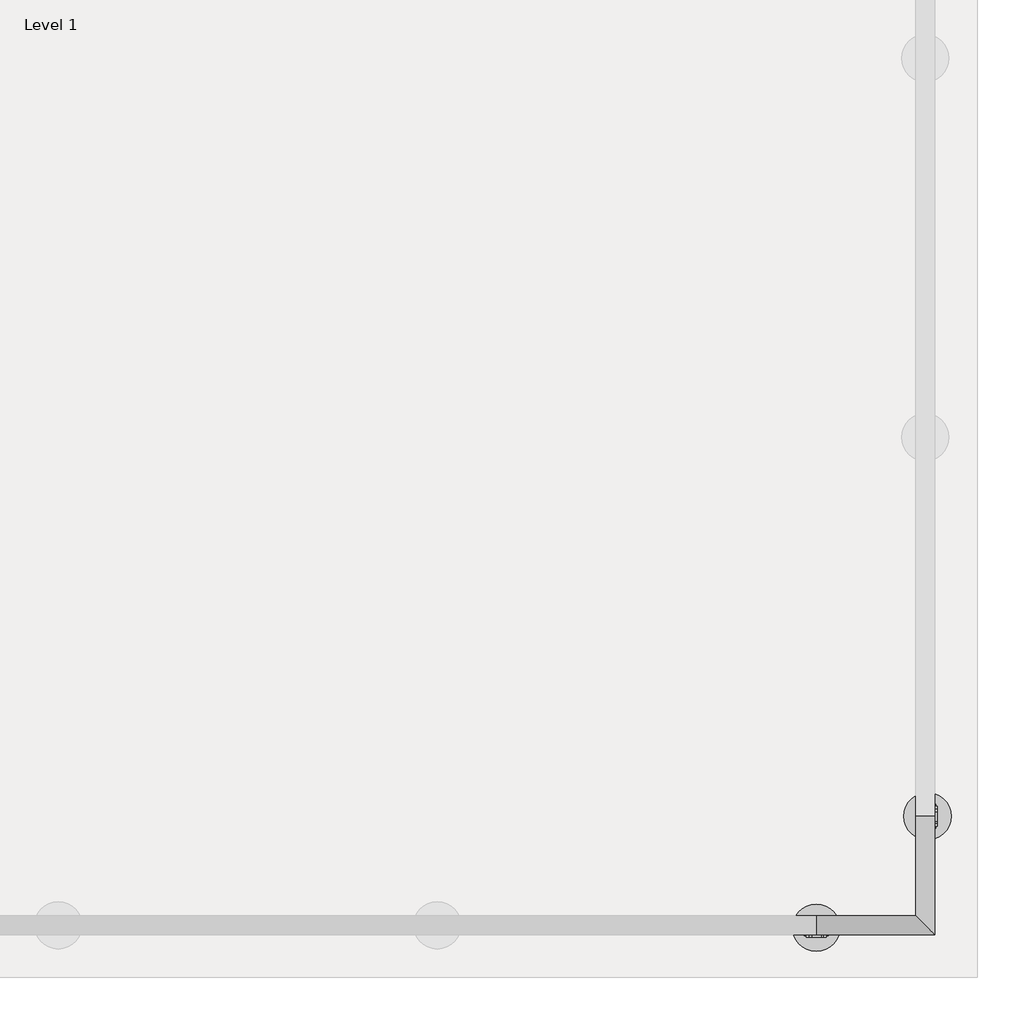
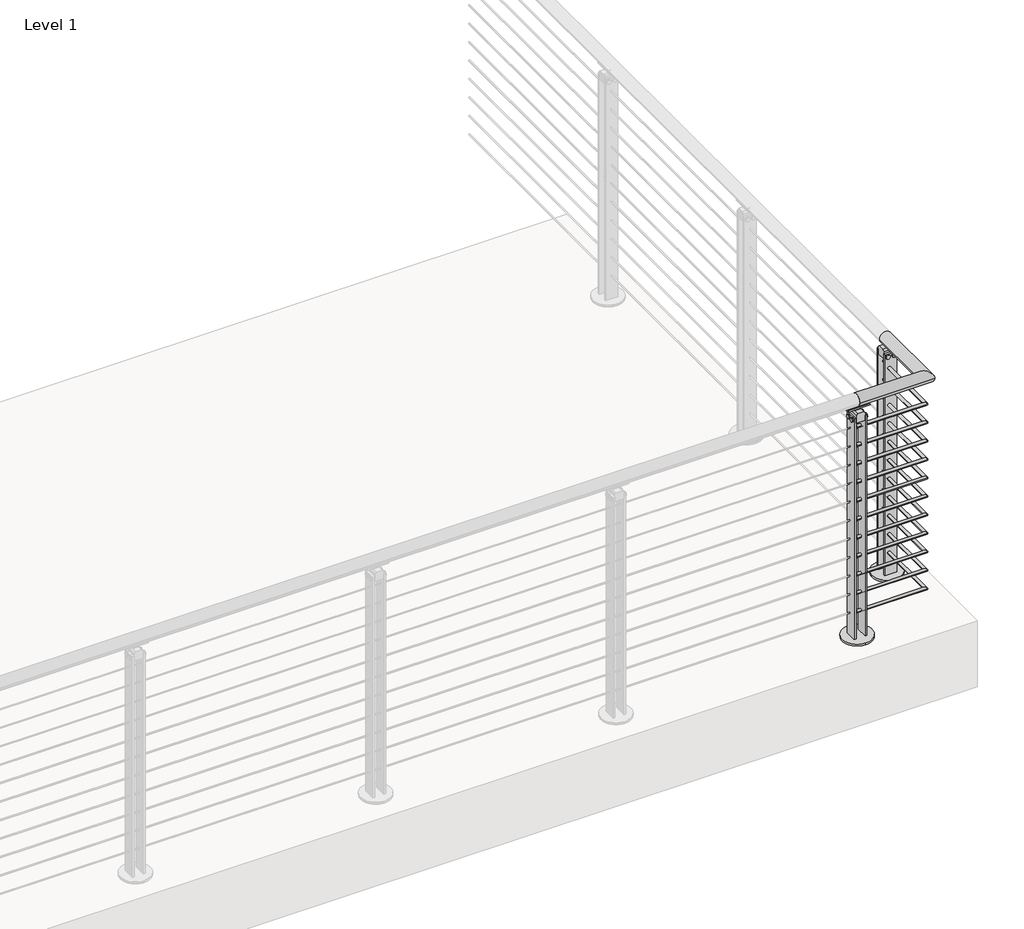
# One storey, part 21 of 36: 1 railing.
"""IFC4 building model written with IfcOpenShell, lengths in millimetres."""

from ifc_helpers import new_model, si_unit, point, frame, frame_2d, origin, origin_with_axes, place, context, project, spatial, polyline, circle_curve, ellipse_curve, trimmed, segment, composite_curve, outline, extrude, element, save
from ifc_brep_helpers import plane_surface, cylinder_surface, revolved_surface, advanced_brep

model = new_model("IFC4")

# Units and contexts
model_context = context("Model", 3, world=origin())
ifc_project = project(units=[si_unit("LENGTHUNIT", "METRE", prefix="MILLI")], contexts=[model_context])

# Site, building, storey
site = spatial("IfcSite", under=ifc_project)
building = spatial("IfcBuilding", under=site)
storey = spatial("IfcBuildingStorey", under=building, Name="Level 1", Elevation=0.0)

# Railing
placement = place(None, origin())
element("IfcRailing", 1, ObjectType="VIVA-BLADE-Cable-Core Mount-Corner", at=placement, inside=storey, context=model_context, shape_type="SolidModel", body=[
    advanced_brep(
    [(69591.9592968, -57070.1334719, 1054.1), (69591.9592968, -57019.3334719, 1054.1), (69909.4592968, -57070.1334719, 1054.1), (69858.6592968, -57019.3334719, 1054.1), (69909.4592968, -56752.6334719, 1054.1), (69858.6592968, -56752.6334719, 1054.1)],
    [
        (0, 1, circle_curve(frame((69591.9592968, -57044.7334719, 1054.1), z_axis=(-1.0, 0.0, 0.0), x_axis=(0.0, 1.0, 0.0)), 25.4)),
        (1, 0, circle_curve(frame((69591.9592968, -57044.7334719, 1054.1), z_axis=(-1.0, 0.0, 0.0), x_axis=(0.0, 1.0, 0.0)), 25.4)),
        (0, 2),
        (2, 3, ellipse_curve(frame((69884.0592968, -57044.7334719, 1054.1), z_axis=(-0.7071067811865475, -0.7071067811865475, 0.0), x_axis=(-0.7071067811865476, 0.7071067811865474, 0.0)), 35.9210245, 25.4)),
        (3, 1),
        (3, 2, ellipse_curve(frame((69884.0592968, -57044.7334719, 1054.1), z_axis=(-0.7071067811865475, -0.7071067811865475, 0.0), x_axis=(-0.7071067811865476, 0.7071067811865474, 0.0)), 35.9210245, 25.4)),
        (4, 5, circle_curve(frame((69884.0592968, -56752.6334719, 1054.1), z_axis=(0.0, 1.0, 0.0), x_axis=(-1.0, 0.0, 0.0)), 25.4)),
        (5, 4, circle_curve(frame((69884.0592968, -56752.6334719, 1054.1), z_axis=(0.0, 1.0, 0.0), x_axis=(-1.0, 0.0, 0.0)), 25.4)),
        (2, 4),
        (5, 3),
    ],
    [
        plane_surface(frame((69591.9592968, -57044.7334719, 1079.5), z_axis=(-1.0, 0.0, 0.0), x_axis=(0.0, 1.0, 0.0))),
        cylinder_surface(frame((69591.9592968, -57044.7334719, 1054.1), z_axis=(-1.0, 0.0, 0.0), x_axis=(0.0, 1.0, 0.0)), 25.4),
        plane_surface(frame((69884.0592968, -56752.6334719, 1079.5), z_axis=(0.0, 1.0, 0.0), x_axis=(0.0, 0.0, 1.0))),
        cylinder_surface(frame((69884.0592968, -57044.7334719, 1054.1), z_axis=(0.0, -1.0, 0.0), x_axis=(-1.0, 0.0, 0.0)), 25.4),
    ],
    [
        (0, [[1, 2]]),
        (1, [[-1, 3, 4, 5]]),
        (1, [[-2, -5, 6, -3]]),
        (2, [[7, 8]]),
        (3, [[-4, 9, -8, 10]]),
        (3, [[-6, -10, -7, -9]]),
    ],
),
    advanced_brep(
    [(69591.9592968, -57038.3834719, 933.45), (69591.9592968, -57051.0834719, 933.45), (69877.7092968, -57038.3834719, 933.45), (69890.4092968, -57051.0834719, 933.45), (69877.7092968, -56752.6334719, 933.45), (69890.4092968, -56752.6334719, 933.45)],
    [
        (0, 1, circle_curve(frame((69591.9592968, -57044.7334719, 933.45), z_axis=(-1.0, 0.0, 0.0), x_axis=(0.0, -1.0, 0.0)), 6.35)),
        (1, 0, circle_curve(frame((69591.9592968, -57044.7334719, 933.45), z_axis=(-1.0, 0.0, 0.0), x_axis=(0.0, -1.0, 0.0)), 6.35)),
        (0, 2),
        (2, 3, ellipse_curve(frame((69884.0592968, -57044.7334719, 933.45), z_axis=(-0.7071067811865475, -0.7071067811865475, 0.0), x_axis=(-0.7071067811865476, 0.7071067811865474, 0.0)), 8.9802561, 6.35)),
        (3, 1),
        (3, 2, ellipse_curve(frame((69884.0592968, -57044.7334719, 933.45), z_axis=(-0.7071067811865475, -0.7071067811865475, 0.0), x_axis=(-0.7071067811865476, 0.7071067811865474, 0.0)), 8.9802561, 6.35)),
        (4, 5, circle_curve(frame((69884.0592968, -56752.6334719, 933.45), z_axis=(0.0, 1.0, 0.0), x_axis=(1.0, 0.0, 0.0)), 6.35)),
        (5, 4, circle_curve(frame((69884.0592968, -56752.6334719, 933.45), z_axis=(0.0, 1.0, 0.0), x_axis=(1.0, 0.0, 0.0)), 6.35)),
        (2, 4),
        (5, 3),
    ],
    [
        plane_surface(frame((69591.9592968, -57044.7334719, 939.8), z_axis=(-1.0, 0.0, 0.0), x_axis=(0.0, 1.0, 0.0))),
        cylinder_surface(frame((69591.9592968, -57044.7334719, 933.45), z_axis=(-1.0, 0.0, 0.0), x_axis=(0.0, -1.0, 0.0)), 6.35),
        plane_surface(frame((69884.0592968, -56752.6334719, 939.8), z_axis=(0.0, 1.0, 0.0), x_axis=(0.0, 0.0, 1.0))),
        cylinder_surface(frame((69884.0592968, -57044.7334719, 933.45), z_axis=(0.0, -1.0, 0.0), x_axis=(1.0, 0.0, 0.0)), 6.35),
    ],
    [
        (0, [[1, 2]]),
        (1, [[-1, 3, 4, 5]]),
        (1, [[-2, -5, 6, -3]]),
        (2, [[7, 8]]),
        (3, [[-4, 9, -8, 10]]),
        (3, [[-6, -10, -7, -9]]),
    ],
),
    advanced_brep(
    [(69591.9592968, -57038.3834719, 850.9), (69591.9592968, -57051.0834719, 850.9), (69877.7092968, -57038.3834719, 850.9), (69890.4092968, -57051.0834719, 850.9), (69877.7092968, -56752.6334719, 850.9), (69890.4092968, -56752.6334719, 850.9)],
    [
        (0, 1, circle_curve(frame((69591.9592968, -57044.7334719, 850.9), z_axis=(-1.0, 0.0, 0.0), x_axis=(0.0, -1.0, 0.0)), 6.35)),
        (1, 0, circle_curve(frame((69591.9592968, -57044.7334719, 850.9), z_axis=(-1.0, 0.0, 0.0), x_axis=(0.0, -1.0, 0.0)), 6.35)),
        (0, 2),
        (2, 3, ellipse_curve(frame((69884.0592968, -57044.7334719, 850.9), z_axis=(-0.7071067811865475, -0.7071067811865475, 0.0), x_axis=(-0.7071067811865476, 0.7071067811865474, 0.0)), 8.9802561, 6.35)),
        (3, 1),
        (3, 2, ellipse_curve(frame((69884.0592968, -57044.7334719, 850.9), z_axis=(-0.7071067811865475, -0.7071067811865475, 0.0), x_axis=(-0.7071067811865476, 0.7071067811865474, 0.0)), 8.9802561, 6.35)),
        (4, 5, circle_curve(frame((69884.0592968, -56752.6334719, 850.9), z_axis=(0.0, 1.0, 0.0), x_axis=(1.0, 0.0, 0.0)), 6.35)),
        (5, 4, circle_curve(frame((69884.0592968, -56752.6334719, 850.9), z_axis=(0.0, 1.0, 0.0), x_axis=(1.0, 0.0, 0.0)), 6.35)),
        (2, 4),
        (5, 3),
    ],
    [
        plane_surface(frame((69591.9592968, -57044.7334719, 857.25), z_axis=(-1.0, 0.0, 0.0), x_axis=(0.0, 1.0, 0.0))),
        cylinder_surface(frame((69591.9592968, -57044.7334719, 850.9), z_axis=(-1.0, 0.0, 0.0), x_axis=(0.0, -1.0, 0.0)), 6.35),
        plane_surface(frame((69884.0592968, -56752.6334719, 857.25), z_axis=(0.0, 1.0, 0.0), x_axis=(0.0, 0.0, 1.0))),
        cylinder_surface(frame((69884.0592968, -57044.7334719, 850.9), z_axis=(0.0, -1.0, 0.0), x_axis=(1.0, 0.0, 0.0)), 6.35),
    ],
    [
        (0, [[1, 2]]),
        (1, [[-1, 3, 4, 5]]),
        (1, [[-2, -5, 6, -3]]),
        (2, [[7, 8]]),
        (3, [[-4, 9, -8, 10]]),
        (3, [[-6, -10, -7, -9]]),
    ],
),
    advanced_brep(
    [(69591.9592968, -57038.3834719, 768.35), (69591.9592968, -57051.0834719, 768.35), (69877.7092968, -57038.3834719, 768.35), (69890.4092968, -57051.0834719, 768.35), (69877.7092968, -56752.6334719, 768.35), (69890.4092968, -56752.6334719, 768.35)],
    [
        (0, 1, circle_curve(frame((69591.9592968, -57044.7334719, 768.35), z_axis=(-1.0, 0.0, 0.0), x_axis=(0.0, -1.0, 0.0)), 6.35)),
        (1, 0, circle_curve(frame((69591.9592968, -57044.7334719, 768.35), z_axis=(-1.0, 0.0, 0.0), x_axis=(0.0, -1.0, 0.0)), 6.35)),
        (0, 2),
        (2, 3, ellipse_curve(frame((69884.0592968, -57044.7334719, 768.35), z_axis=(-0.7071067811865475, -0.7071067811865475, 0.0), x_axis=(-0.7071067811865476, 0.7071067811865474, 0.0)), 8.9802561, 6.35)),
        (3, 1),
        (3, 2, ellipse_curve(frame((69884.0592968, -57044.7334719, 768.35), z_axis=(-0.7071067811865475, -0.7071067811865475, 0.0), x_axis=(-0.7071067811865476, 0.7071067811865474, 0.0)), 8.9802561, 6.35)),
        (4, 5, circle_curve(frame((69884.0592968, -56752.6334719, 768.35), z_axis=(0.0, 1.0, 0.0), x_axis=(1.0, 0.0, 0.0)), 6.35)),
        (5, 4, circle_curve(frame((69884.0592968, -56752.6334719, 768.35), z_axis=(0.0, 1.0, 0.0), x_axis=(1.0, 0.0, 0.0)), 6.35)),
        (2, 4),
        (5, 3),
    ],
    [
        plane_surface(frame((69591.9592968, -57044.7334719, 774.7), z_axis=(-1.0, 0.0, 0.0), x_axis=(0.0, 1.0, 0.0))),
        cylinder_surface(frame((69591.9592968, -57044.7334719, 768.35), z_axis=(-1.0, 0.0, 0.0), x_axis=(0.0, -1.0, 0.0)), 6.35),
        plane_surface(frame((69884.0592968, -56752.6334719, 774.7), z_axis=(0.0, 1.0, 0.0), x_axis=(0.0, 0.0, 1.0))),
        cylinder_surface(frame((69884.0592968, -57044.7334719, 768.35), z_axis=(0.0, -1.0, 0.0), x_axis=(1.0, 0.0, 0.0)), 6.35),
    ],
    [
        (0, [[1, 2]]),
        (1, [[-1, 3, 4, 5]]),
        (1, [[-2, -5, 6, -3]]),
        (2, [[7, 8]]),
        (3, [[-4, 9, -8, 10]]),
        (3, [[-6, -10, -7, -9]]),
    ],
),
    advanced_brep(
    [(69591.9592968, -57038.3834719, 685.8), (69591.9592968, -57051.0834719, 685.8), (69877.7092968, -57038.3834719, 685.8), (69890.4092968, -57051.0834719, 685.8), (69877.7092968, -56752.6334719, 685.8), (69890.4092968, -56752.6334719, 685.8)],
    [
        (0, 1, circle_curve(frame((69591.9592968, -57044.7334719, 685.8), z_axis=(-1.0, 0.0, 0.0), x_axis=(0.0, -1.0, 0.0)), 6.35)),
        (1, 0, circle_curve(frame((69591.9592968, -57044.7334719, 685.8), z_axis=(-1.0, 0.0, 0.0), x_axis=(0.0, -1.0, 0.0)), 6.35)),
        (0, 2),
        (2, 3, ellipse_curve(frame((69884.0592968, -57044.7334719, 685.8), z_axis=(-0.7071067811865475, -0.7071067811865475, 0.0), x_axis=(-0.7071067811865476, 0.7071067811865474, 0.0)), 8.9802561, 6.35)),
        (3, 1),
        (3, 2, ellipse_curve(frame((69884.0592968, -57044.7334719, 685.8), z_axis=(-0.7071067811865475, -0.7071067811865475, 0.0), x_axis=(-0.7071067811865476, 0.7071067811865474, 0.0)), 8.9802561, 6.35)),
        (4, 5, circle_curve(frame((69884.0592968, -56752.6334719, 685.8), z_axis=(0.0, 1.0, 0.0), x_axis=(1.0, 0.0, 0.0)), 6.35)),
        (5, 4, circle_curve(frame((69884.0592968, -56752.6334719, 685.8), z_axis=(0.0, 1.0, 0.0), x_axis=(1.0, 0.0, 0.0)), 6.35)),
        (2, 4),
        (5, 3),
    ],
    [
        plane_surface(frame((69591.9592968, -57044.7334719, 692.15), z_axis=(-1.0, 0.0, 0.0), x_axis=(0.0, 1.0, 0.0))),
        cylinder_surface(frame((69591.9592968, -57044.7334719, 685.8), z_axis=(-1.0, 0.0, 0.0), x_axis=(0.0, -1.0, 0.0)), 6.35),
        plane_surface(frame((69884.0592968, -56752.6334719, 692.15), z_axis=(0.0, 1.0, 0.0), x_axis=(0.0, 0.0, 1.0))),
        cylinder_surface(frame((69884.0592968, -57044.7334719, 685.8), z_axis=(0.0, -1.0, 0.0), x_axis=(1.0, 0.0, 0.0)), 6.35),
    ],
    [
        (0, [[1, 2]]),
        (1, [[-1, 3, 4, 5]]),
        (1, [[-2, -5, 6, -3]]),
        (2, [[7, 8]]),
        (3, [[-4, 9, -8, 10]]),
        (3, [[-6, -10, -7, -9]]),
    ],
),
    advanced_brep(
    [(69591.9592968, -57038.3834719, 603.25), (69591.9592968, -57051.0834719, 603.25), (69877.7092968, -57038.3834719, 603.25), (69890.4092968, -57051.0834719, 603.25), (69877.7092968, -56752.6334719, 603.25), (69890.4092968, -56752.6334719, 603.25)],
    [
        (0, 1, circle_curve(frame((69591.9592968, -57044.7334719, 603.25), z_axis=(-1.0, 0.0, 0.0), x_axis=(0.0, -1.0, 0.0)), 6.35)),
        (1, 0, circle_curve(frame((69591.9592968, -57044.7334719, 603.25), z_axis=(-1.0, 0.0, 0.0), x_axis=(0.0, -1.0, 0.0)), 6.35)),
        (0, 2),
        (2, 3, ellipse_curve(frame((69884.0592968, -57044.7334719, 603.25), z_axis=(-0.7071067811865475, -0.7071067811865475, 0.0), x_axis=(-0.7071067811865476, 0.7071067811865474, 0.0)), 8.9802561, 6.35)),
        (3, 1),
        (3, 2, ellipse_curve(frame((69884.0592968, -57044.7334719, 603.25), z_axis=(-0.7071067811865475, -0.7071067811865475, 0.0), x_axis=(-0.7071067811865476, 0.7071067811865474, 0.0)), 8.9802561, 6.35)),
        (4, 5, circle_curve(frame((69884.0592968, -56752.6334719, 603.25), z_axis=(0.0, 1.0, 0.0), x_axis=(1.0, 0.0, 0.0)), 6.35)),
        (5, 4, circle_curve(frame((69884.0592968, -56752.6334719, 603.25), z_axis=(0.0, 1.0, 0.0), x_axis=(1.0, 0.0, 0.0)), 6.35)),
        (2, 4),
        (5, 3),
    ],
    [
        plane_surface(frame((69591.9592968, -57044.7334719, 609.6), z_axis=(-1.0, 0.0, 0.0), x_axis=(0.0, 1.0, 0.0))),
        cylinder_surface(frame((69591.9592968, -57044.7334719, 603.25), z_axis=(-1.0, 0.0, 0.0), x_axis=(0.0, -1.0, 0.0)), 6.35),
        plane_surface(frame((69884.0592968, -56752.6334719, 609.6), z_axis=(0.0, 1.0, 0.0), x_axis=(0.0, 0.0, 1.0))),
        cylinder_surface(frame((69884.0592968, -57044.7334719, 603.25), z_axis=(0.0, -1.0, 0.0), x_axis=(1.0, 0.0, 0.0)), 6.35),
    ],
    [
        (0, [[1, 2]]),
        (1, [[-1, 3, 4, 5]]),
        (1, [[-2, -5, 6, -3]]),
        (2, [[7, 8]]),
        (3, [[-4, 9, -8, 10]]),
        (3, [[-6, -10, -7, -9]]),
    ],
),
    advanced_brep(
    [(69591.9592968, -57038.3834719, 520.7), (69591.9592968, -57051.0834719, 520.7), (69877.7092968, -57038.3834719, 520.7), (69890.4092968, -57051.0834719, 520.7), (69877.7092968, -56752.6334719, 520.7), (69890.4092968, -56752.6334719, 520.7)],
    [
        (0, 1, circle_curve(frame((69591.9592968, -57044.7334719, 520.7), z_axis=(-1.0, 0.0, 0.0), x_axis=(0.0, -1.0, 0.0)), 6.35)),
        (1, 0, circle_curve(frame((69591.9592968, -57044.7334719, 520.7), z_axis=(-1.0, 0.0, 0.0), x_axis=(0.0, -1.0, 0.0)), 6.35)),
        (0, 2),
        (2, 3, ellipse_curve(frame((69884.0592968, -57044.7334719, 520.7), z_axis=(-0.7071067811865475, -0.7071067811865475, 0.0), x_axis=(-0.7071067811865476, 0.7071067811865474, 0.0)), 8.9802561, 6.35)),
        (3, 1),
        (3, 2, ellipse_curve(frame((69884.0592968, -57044.7334719, 520.7), z_axis=(-0.7071067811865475, -0.7071067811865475, 0.0), x_axis=(-0.7071067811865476, 0.7071067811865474, 0.0)), 8.9802561, 6.35)),
        (4, 5, circle_curve(frame((69884.0592968, -56752.6334719, 520.7), z_axis=(0.0, 1.0, 0.0), x_axis=(1.0, 0.0, 0.0)), 6.35)),
        (5, 4, circle_curve(frame((69884.0592968, -56752.6334719, 520.7), z_axis=(0.0, 1.0, 0.0), x_axis=(1.0, 0.0, 0.0)), 6.35)),
        (2, 4),
        (5, 3),
    ],
    [
        plane_surface(frame((69591.9592968, -57044.7334719, 527.05), z_axis=(-1.0, 0.0, 0.0), x_axis=(0.0, 1.0, 0.0))),
        cylinder_surface(frame((69591.9592968, -57044.7334719, 520.7), z_axis=(-1.0, 0.0, 0.0), x_axis=(0.0, -1.0, 0.0)), 6.35),
        plane_surface(frame((69884.0592968, -56752.6334719, 527.05), z_axis=(0.0, 1.0, 0.0), x_axis=(0.0, 0.0, 1.0))),
        cylinder_surface(frame((69884.0592968, -57044.7334719, 520.7), z_axis=(0.0, -1.0, 0.0), x_axis=(1.0, 0.0, 0.0)), 6.35),
    ],
    [
        (0, [[1, 2]]),
        (1, [[-1, 3, 4, 5]]),
        (1, [[-2, -5, 6, -3]]),
        (2, [[7, 8]]),
        (3, [[-4, 9, -8, 10]]),
        (3, [[-6, -10, -7, -9]]),
    ],
),
    advanced_brep(
    [(69591.9592968, -57038.3834719, 438.15), (69591.9592968, -57051.0834719, 438.15), (69877.7092968, -57038.3834719, 438.15), (69890.4092968, -57051.0834719, 438.15), (69877.7092968, -56752.6334719, 438.15), (69890.4092968, -56752.6334719, 438.15)],
    [
        (0, 1, circle_curve(frame((69591.9592968, -57044.7334719, 438.15), z_axis=(-1.0, 0.0, 0.0), x_axis=(0.0, -1.0, 0.0)), 6.35)),
        (1, 0, circle_curve(frame((69591.9592968, -57044.7334719, 438.15), z_axis=(-1.0, 0.0, 0.0), x_axis=(0.0, -1.0, 0.0)), 6.35)),
        (0, 2),
        (2, 3, ellipse_curve(frame((69884.0592968, -57044.7334719, 438.15), z_axis=(-0.7071067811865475, -0.7071067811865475, 0.0), x_axis=(-0.7071067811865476, 0.7071067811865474, 0.0)), 8.9802561, 6.35)),
        (3, 1),
        (3, 2, ellipse_curve(frame((69884.0592968, -57044.7334719, 438.15), z_axis=(-0.7071067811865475, -0.7071067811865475, 0.0), x_axis=(-0.7071067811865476, 0.7071067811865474, 0.0)), 8.9802561, 6.35)),
        (4, 5, circle_curve(frame((69884.0592968, -56752.6334719, 438.15), z_axis=(0.0, 1.0, 0.0), x_axis=(1.0, 0.0, 0.0)), 6.35)),
        (5, 4, circle_curve(frame((69884.0592968, -56752.6334719, 438.15), z_axis=(0.0, 1.0, 0.0), x_axis=(1.0, 0.0, 0.0)), 6.35)),
        (2, 4),
        (5, 3),
    ],
    [
        plane_surface(frame((69591.9592968, -57044.7334719, 444.5), z_axis=(-1.0, 0.0, 0.0), x_axis=(0.0, 1.0, 0.0))),
        cylinder_surface(frame((69591.9592968, -57044.7334719, 438.15), z_axis=(-1.0, 0.0, 0.0), x_axis=(0.0, -1.0, 0.0)), 6.35),
        plane_surface(frame((69884.0592968, -56752.6334719, 444.5), z_axis=(0.0, 1.0, 0.0), x_axis=(0.0, 0.0, 1.0))),
        cylinder_surface(frame((69884.0592968, -57044.7334719, 438.15), z_axis=(0.0, -1.0, 0.0), x_axis=(1.0, 0.0, 0.0)), 6.35),
    ],
    [
        (0, [[1, 2]]),
        (1, [[-1, 3, 4, 5]]),
        (1, [[-2, -5, 6, -3]]),
        (2, [[7, 8]]),
        (3, [[-4, 9, -8, 10]]),
        (3, [[-6, -10, -7, -9]]),
    ],
),
    advanced_brep(
    [(69591.9592968, -57038.3834719, 355.6), (69591.9592968, -57051.0834719, 355.6), (69877.7092968, -57038.3834719, 355.6), (69890.4092968, -57051.0834719, 355.6), (69877.7092968, -56752.6334719, 355.6), (69890.4092968, -56752.6334719, 355.6)],
    [
        (0, 1, circle_curve(frame((69591.9592968, -57044.7334719, 355.6), z_axis=(-1.0, 0.0, 0.0), x_axis=(0.0, -1.0, 0.0)), 6.35)),
        (1, 0, circle_curve(frame((69591.9592968, -57044.7334719, 355.6), z_axis=(-1.0, 0.0, 0.0), x_axis=(0.0, -1.0, 0.0)), 6.35)),
        (0, 2),
        (2, 3, ellipse_curve(frame((69884.0592968, -57044.7334719, 355.6), z_axis=(-0.7071067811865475, -0.7071067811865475, 0.0), x_axis=(-0.7071067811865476, 0.7071067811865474, 0.0)), 8.9802561, 6.35)),
        (3, 1),
        (3, 2, ellipse_curve(frame((69884.0592968, -57044.7334719, 355.6), z_axis=(-0.7071067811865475, -0.7071067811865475, 0.0), x_axis=(-0.7071067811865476, 0.7071067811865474, 0.0)), 8.9802561, 6.35)),
        (4, 5, circle_curve(frame((69884.0592968, -56752.6334719, 355.6), z_axis=(0.0, 1.0, 0.0), x_axis=(1.0, 0.0, 0.0)), 6.35)),
        (5, 4, circle_curve(frame((69884.0592968, -56752.6334719, 355.6), z_axis=(0.0, 1.0, 0.0), x_axis=(1.0, 0.0, 0.0)), 6.35)),
        (2, 4),
        (5, 3),
    ],
    [
        plane_surface(frame((69591.9592968, -57044.7334719, 361.95), z_axis=(-1.0, 0.0, 0.0), x_axis=(0.0, 1.0, 0.0))),
        cylinder_surface(frame((69591.9592968, -57044.7334719, 355.6), z_axis=(-1.0, 0.0, 0.0), x_axis=(0.0, -1.0, 0.0)), 6.35),
        plane_surface(frame((69884.0592968, -56752.6334719, 361.95), z_axis=(0.0, 1.0, 0.0), x_axis=(0.0, 0.0, 1.0))),
        cylinder_surface(frame((69884.0592968, -57044.7334719, 355.6), z_axis=(0.0, -1.0, 0.0), x_axis=(1.0, 0.0, 0.0)), 6.35),
    ],
    [
        (0, [[1, 2]]),
        (1, [[-1, 3, 4, 5]]),
        (1, [[-2, -5, 6, -3]]),
        (2, [[7, 8]]),
        (3, [[-4, 9, -8, 10]]),
        (3, [[-6, -10, -7, -9]]),
    ],
),
    advanced_brep(
    [(69591.9592968, -57038.3834719, 273.05), (69591.9592968, -57051.0834719, 273.05), (69877.7092968, -57038.3834719, 273.05), (69890.4092968, -57051.0834719, 273.05), (69877.7092968, -56752.6334719, 273.05), (69890.4092968, -56752.6334719, 273.05)],
    [
        (0, 1, circle_curve(frame((69591.9592968, -57044.7334719, 273.05), z_axis=(-1.0, 0.0, 0.0), x_axis=(0.0, -1.0, 0.0)), 6.35)),
        (1, 0, circle_curve(frame((69591.9592968, -57044.7334719, 273.05), z_axis=(-1.0, 0.0, 0.0), x_axis=(0.0, -1.0, 0.0)), 6.35)),
        (0, 2),
        (2, 3, ellipse_curve(frame((69884.0592968, -57044.7334719, 273.05), z_axis=(-0.7071067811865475, -0.7071067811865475, 0.0), x_axis=(-0.7071067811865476, 0.7071067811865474, 0.0)), 8.9802561, 6.35)),
        (3, 1),
        (3, 2, ellipse_curve(frame((69884.0592968, -57044.7334719, 273.05), z_axis=(-0.7071067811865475, -0.7071067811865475, 0.0), x_axis=(-0.7071067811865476, 0.7071067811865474, 0.0)), 8.9802561, 6.35)),
        (4, 5, circle_curve(frame((69884.0592968, -56752.6334719, 273.05), z_axis=(0.0, 1.0, 0.0), x_axis=(1.0, 0.0, 0.0)), 6.35)),
        (5, 4, circle_curve(frame((69884.0592968, -56752.6334719, 273.05), z_axis=(0.0, 1.0, 0.0), x_axis=(1.0, 0.0, 0.0)), 6.35)),
        (2, 4),
        (5, 3),
    ],
    [
        plane_surface(frame((69591.9592968, -57044.7334719, 279.4), z_axis=(-1.0, 0.0, 0.0), x_axis=(0.0, 1.0, 0.0))),
        cylinder_surface(frame((69591.9592968, -57044.7334719, 273.05), z_axis=(-1.0, 0.0, 0.0), x_axis=(0.0, -1.0, 0.0)), 6.35),
        plane_surface(frame((69884.0592968, -56752.6334719, 279.4), z_axis=(0.0, 1.0, 0.0), x_axis=(0.0, 0.0, 1.0))),
        cylinder_surface(frame((69884.0592968, -57044.7334719, 273.05), z_axis=(0.0, -1.0, 0.0), x_axis=(1.0, 0.0, 0.0)), 6.35),
    ],
    [
        (0, [[1, 2]]),
        (1, [[-1, 3, 4, 5]]),
        (1, [[-2, -5, 6, -3]]),
        (2, [[7, 8]]),
        (3, [[-4, 9, -8, 10]]),
        (3, [[-6, -10, -7, -9]]),
    ],
),
    advanced_brep(
    [(69591.9592968, -57038.3834719, 190.5), (69591.9592968, -57051.0834719, 190.5), (69877.7092968, -57038.3834719, 190.5), (69890.4092968, -57051.0834719, 190.5), (69877.7092968, -56752.6334719, 190.5), (69890.4092968, -56752.6334719, 190.5)],
    [
        (0, 1, circle_curve(frame((69591.9592968, -57044.7334719, 190.5), z_axis=(-1.0, 0.0, 0.0), x_axis=(0.0, -1.0, 0.0)), 6.35)),
        (1, 0, circle_curve(frame((69591.9592968, -57044.7334719, 190.5), z_axis=(-1.0, 0.0, 0.0), x_axis=(0.0, -1.0, 0.0)), 6.35)),
        (0, 2),
        (2, 3, ellipse_curve(frame((69884.0592968, -57044.7334719, 190.5), z_axis=(-0.7071067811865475, -0.7071067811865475, 0.0), x_axis=(-0.7071067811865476, 0.7071067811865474, 0.0)), 8.9802561, 6.35)),
        (3, 1),
        (3, 2, ellipse_curve(frame((69884.0592968, -57044.7334719, 190.5), z_axis=(-0.7071067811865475, -0.7071067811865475, 0.0), x_axis=(-0.7071067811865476, 0.7071067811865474, 0.0)), 8.9802561, 6.35)),
        (4, 5, circle_curve(frame((69884.0592968, -56752.6334719, 190.5), z_axis=(0.0, 1.0, 0.0), x_axis=(1.0, 0.0, 0.0)), 6.35)),
        (5, 4, circle_curve(frame((69884.0592968, -56752.6334719, 190.5), z_axis=(0.0, 1.0, 0.0), x_axis=(1.0, 0.0, 0.0)), 6.35)),
        (2, 4),
        (5, 3),
    ],
    [
        plane_surface(frame((69591.9592968, -57044.7334719, 196.85), z_axis=(-1.0, 0.0, 0.0), x_axis=(0.0, 1.0, 0.0))),
        cylinder_surface(frame((69591.9592968, -57044.7334719, 190.5), z_axis=(-1.0, 0.0, 0.0), x_axis=(0.0, -1.0, 0.0)), 6.35),
        plane_surface(frame((69884.0592968, -56752.6334719, 196.85), z_axis=(0.0, 1.0, 0.0), x_axis=(0.0, 0.0, 1.0))),
        cylinder_surface(frame((69884.0592968, -57044.7334719, 190.5), z_axis=(0.0, -1.0, 0.0), x_axis=(1.0, 0.0, 0.0)), 6.35),
    ],
    [
        (0, [[1, 2]]),
        (1, [[-1, 3, 4, 5]]),
        (1, [[-2, -5, 6, -3]]),
        (2, [[7, 8]]),
        (3, [[-4, 9, -8, 10]]),
        (3, [[-6, -10, -7, -9]]),
    ],
),
    advanced_brep(
    [(69591.9592968, -57038.3834719, 107.95), (69591.9592968, -57051.0834719, 107.95), (69877.7092968, -57038.3834719, 107.95), (69890.4092968, -57051.0834719, 107.95), (69877.7092968, -56752.6334719, 107.95), (69890.4092968, -56752.6334719, 107.95)],
    [
        (0, 1, circle_curve(frame((69591.9592968, -57044.7334719, 107.95), z_axis=(-1.0, 0.0, 0.0), x_axis=(0.0, -1.0, 0.0)), 6.35)),
        (1, 0, circle_curve(frame((69591.9592968, -57044.7334719, 107.95), z_axis=(-1.0, 0.0, 0.0), x_axis=(0.0, -1.0, 0.0)), 6.35)),
        (0, 2),
        (2, 3, ellipse_curve(frame((69884.0592968, -57044.7334719, 107.95), z_axis=(-0.7071067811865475, -0.7071067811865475, 0.0), x_axis=(-0.7071067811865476, 0.7071067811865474, 0.0)), 8.9802561, 6.35)),
        (3, 1),
        (3, 2, ellipse_curve(frame((69884.0592968, -57044.7334719, 107.95), z_axis=(-0.7071067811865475, -0.7071067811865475, 0.0), x_axis=(-0.7071067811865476, 0.7071067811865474, 0.0)), 8.9802561, 6.35)),
        (4, 5, circle_curve(frame((69884.0592968, -56752.6334719, 107.95), z_axis=(0.0, 1.0, 0.0), x_axis=(1.0, 0.0, 0.0)), 6.35)),
        (5, 4, circle_curve(frame((69884.0592968, -56752.6334719, 107.95), z_axis=(0.0, 1.0, 0.0), x_axis=(1.0, 0.0, 0.0)), 6.35)),
        (2, 4),
        (5, 3),
    ],
    [
        plane_surface(frame((69591.9592968, -57044.7334719, 114.3), z_axis=(-1.0, 0.0, 0.0), x_axis=(0.0, 1.0, 0.0))),
        cylinder_surface(frame((69591.9592968, -57044.7334719, 107.95), z_axis=(-1.0, 0.0, 0.0), x_axis=(0.0, -1.0, 0.0)), 6.35),
        plane_surface(frame((69884.0592968, -56752.6334719, 114.3), z_axis=(0.0, 1.0, 0.0), x_axis=(0.0, 0.0, 1.0))),
        cylinder_surface(frame((69884.0592968, -57044.7334719, 107.95), z_axis=(0.0, -1.0, 0.0), x_axis=(1.0, 0.0, 0.0)), 6.35),
    ],
    [
        (0, [[1, 2]]),
        (1, [[-1, 3, 4, 5]]),
        (1, [[-2, -5, 6, -3]]),
        (2, [[7, 8]]),
        (3, [[-4, 9, -8, 10]]),
        (3, [[-6, -10, -7, -9]]),
    ],
),
    extrude(outline(polyline([(69865.0095001, -56779.7083075), (69865.0095001, -56771.6834719), (69915.8118247, -56771.6834719), (69915.8118247, -56779.7083075), (69865.0095001, -56779.7083075)])), frame((0.0, 0.0, -146.05), z_axis=(0.0, 0.0, 1.0), x_axis=(1.0, 0.0, 0.0)), (0.0, 0.0, 1.0), 146.05),
    extrude(outline(polyline([(69865.0095001, -56733.5835099), (69865.0095001, -56725.5825099), (69915.8118247, -56725.5825099), (69915.8118247, -56733.5835099), (69865.0095001, -56733.5835099)])), frame((0.0, 0.0, -146.05), z_axis=(0.0, 0.0, 1.0), x_axis=(1.0, 0.0, 0.0)), (0.0, 0.0, 1.0), 146.05),
    extrude(outline(composite_curve([segment(trimmed(circle_curve(frame_2d((69890.4092968, -56752.6454087)), 63.4988059), [point((69953.9081027, -56752.6454087))], [point((69826.9104908, -56752.6454087))], False, "CARTESIAN"), True, "CONTINUOUS"), segment(trimmed(circle_curve(frame_2d((69890.4092968, -56752.6454087)), 63.4988059), [point((69826.9104908, -56752.6454087))], [point((69953.9081027, -56752.6454087))], False, "CARTESIAN"), True, "CONTINUOUS")], self_intersect=False)), origin_with_axes(), (0.0, 0.0, 1.0), 9.525),
    advanced_brep(
    [(69877.6491731, -56707.3960719, 1032.0967655), (69902.5212376, -56707.3960719, 1031.9535285), (69905.330168, -56707.3960719, 1027.1267745), (69873.8132757, -56707.3960719, 1027.707533), (69877.6491731, -56797.8708719, 1032.0967655), (69873.8132757, -56797.8708719, 1027.707533), (69905.4439614, -56797.8708719, 1027.1893964), (69902.6082098, -56797.8708719, 1032.0018447)],
    [
        (0, 1, circle_curve(frame((69890.212976, -56707.3960719, 1054.2115898), z_axis=(0.0, -1.0, 0.0), x_axis=(-1.0, 0.0, 0.0)), 25.4345159)),
        (1, 2, circle_curve(frame((69903.8528629, -56707.3960719, 1029.4993599), z_axis=(0.0, 1.0, 0.0), x_axis=(-1.0, 0.0, 0.0)), 2.7949225)),
        (2, 3, circle_curve(frame((69890.0795129, -56707.3960719, 1054.9742164), z_axis=(0.0, 1.0, 0.0), x_axis=(-1.0, 0.0, 0.0)), 31.75)),
        (3, 0, circle_curve(frame((69876.1016155, -56707.3960719, 1029.5784521), z_axis=(0.0, 1.0, 0.0), x_axis=(-1.0, 0.0, 0.0)), 2.9558141)),
        (4, 5, circle_curve(frame((69876.1016155, -56797.8708719, 1029.5784521), z_axis=(0.0, -1.0, 0.0), x_axis=(-1.0, 0.0, 0.0)), 2.9558141)),
        (5, 6, circle_curve(frame((69890.0795129, -56797.8708719, 1054.9742164), z_axis=(0.0, -1.0, 0.0), x_axis=(-1.0, 0.0, 0.0)), 31.75)),
        (6, 7, circle_curve(frame((69903.8528629, -56797.8708719, 1029.4993599), z_axis=(0.0, -1.0, 0.0), x_axis=(-1.0, 0.0, 0.0)), 2.7949225)),
        (7, 4, circle_curve(frame((69890.212976, -56797.8708719, 1054.2115898), z_axis=(0.0, 1.0, 0.0), x_axis=(-1.0, 0.0, 0.0)), 25.4345159)),
        (0, 4),
        (7, 1),
        (6, 2),
        (5, 3),
    ],
    [
        plane_surface(frame((69864.7784602, -56707.3960719, 1054.2115898), z_axis=(0.0, 1.0, 0.0), x_axis=(0.0, 0.0, -1.0))),
        plane_surface(frame((69864.7784602, -56797.8708719, 1054.2115898), z_axis=(0.0, -1.0, 0.0), x_axis=(0.0, 0.0, 1.0))),
        revolved_surface(polyline([(69864.7784601, -56797.8708719, 1054.2115898), (69864.7784601, -56707.3960719, 1054.2115898)]), (69890.212976, -56797.8708719, 1054.2115898), (0.0, -1.0, 0.0)),
        cylinder_surface(frame((69903.8528629, -56797.8708719, 1029.4993599), z_axis=(0.0, 1.0, 0.0), x_axis=(-1.0, 0.0, 0.0)), 2.7949225),
        cylinder_surface(frame((69890.0795129, -56797.8708719, 1054.9742164), z_axis=(0.0, 1.0, 0.0), x_axis=(-1.0, 0.0, 0.0)), 31.75),
        cylinder_surface(frame((69876.1016155, -56797.8708719, 1029.5784521), z_axis=(0.0, 1.0, 0.0), x_axis=(-1.0, 0.0, 0.0)), 2.9558141),
    ],
    [
        (0, [[1, 2, 3, 4]]),
        (1, [[5, 6, 7, 8]]),
        (2, [[-1, 9, -8, 10]]),
        (3, [[-2, -10, -7, 11]]),
        (4, [[-3, -11, -6, 12]]),
        (5, [[-4, -12, -5, -9]]),
    ],
),
    advanced_brep(
    [(69887.8692968, -56739.9334719, 1014.4125), (69887.8692968, -56765.3334719, 1014.4125), (69887.8692968, -56779.7013867, 1028.7804149), (69887.8692968, -56725.565557, 1028.7804149), (69892.9492968, -56739.9334719, 1014.4125), (69892.9492968, -56725.565557, 1028.7804149), (69892.9492968, -56779.7013867, 1028.7804149), (69892.9492968, -56765.3334719, 1014.4125)],
    [
        (0, 1),
        (1, 2, circle_curve(frame((69887.8692968, -56779.7013867, 1014.4125), z_axis=(1.0, 0.0, 0.0), x_axis=(0.0, -1.0, 0.0)), 14.3679149)),
        (2, 3),
        (3, 0, circle_curve(frame((69887.8692968, -56725.565557, 1014.4125), z_axis=(1.0, 0.0, 0.0), x_axis=(0.0, -1.0, 0.0)), 14.3679149)),
        (4, 5, circle_curve(frame((69892.9492968, -56725.565557, 1014.4125), z_axis=(-1.0, 0.0, 0.0), x_axis=(0.0, -1.0, 0.0)), 14.3679149)),
        (5, 6),
        (6, 7, circle_curve(frame((69892.9492968, -56779.7013867, 1014.4125), z_axis=(-1.0, 0.0, 0.0), x_axis=(0.0, -1.0, 0.0)), 14.3679149)),
        (7, 4),
        (0, 4),
        (7, 1),
        (6, 2),
        (5, 3),
    ],
    [
        plane_surface(frame((69887.8692968, -56765.3334719, 1014.4125), z_axis=(-1.0, 0.0, 0.0), x_axis=(0.0, -1.0, 0.0))),
        plane_surface(frame((69892.9492968, -56765.3334719, 1014.4125), z_axis=(1.0, 0.0, 0.0), x_axis=(0.0, 1.0, 0.0))),
        plane_surface(frame((69887.8692968, -56739.9334719, 1014.4125), z_axis=(0.0, 0.0, -1.0), x_axis=(1.0, 0.0, 0.0))),
        revolved_surface(polyline([(69892.9492968, -56794.0693016, 1014.4125), (69887.8692968, -56794.0693016, 1014.4125)]), (69892.9492968, -56779.7013867, 1014.4125), (1.0, 0.0, 0.0)),
        plane_surface(frame((69887.8692968, -56779.7013867, 1028.7804149), z_axis=(0.0, 0.0, 1.0), x_axis=(1.0, 0.0, 0.0))),
        revolved_surface(polyline([(69892.9492968, -56739.9334719, 1014.4125), (69887.8692968, -56739.9334719, 1014.4125)]), (69892.9492968, -56725.565557, 1014.4125), (1.0, 0.0, 0.0)),
    ],
    [
        (0, [[1, 2, 3, 4]]),
        (1, [[5, 6, 7, 8]]),
        (2, [[-1, 9, -8, 10]]),
        (3, [[-2, -10, -7, 11]]),
        (4, [[-3, -11, -6, 12]]),
        (5, [[-4, -12, -5, -9]]),
    ],
),
    extrude(outline(polyline([(69865.0095001, -56779.7083075), (69865.0095001, -56771.6834719), (69915.8118247, -56771.6834719), (69915.8118247, -56779.7083075), (69865.0095001, -56779.7083075)])), origin_with_axes(), (0.0, 0.0, 1.0), 996.95),
    extrude(outline(composite_curve([segment(trimmed(circle_curve(frame_2d((986.0416929, 69903.1117737)), 8.89), [point((986.0416929, 69912.0017737))], [point((986.0416929, 69894.2217737))], False, "CARTESIAN"), True, "CONTINUOUS"), segment(trimmed(circle_curve(frame_2d((986.0416929, 69903.1117737)), 8.89), [point((986.0416929, 69894.2217737))], [point((986.0416929, 69912.0017737))], False, "CARTESIAN"), True, "CONTINUOUS")], self_intersect=False)), frame((0.0, -56784.3834719, 0.0), z_axis=(0.0, 1.0, 0.0), x_axis=(0.0, 0.0, 1.0)), (0.0, 0.0, 1.0), 63.4880631),
    extrude(outline(composite_curve([segment(trimmed(circle_curve(frame_2d((986.0416929, 69877.7118757)), 8.89), [point((986.0416929, 69886.6018757))], [point((986.0416929, 69868.8218757))], False, "CARTESIAN"), True, "CONTINUOUS"), segment(trimmed(circle_curve(frame_2d((986.0416929, 69877.7118757)), 8.89), [point((986.0416929, 69868.8218757))], [point((986.0416929, 69886.6018757))], False, "CARTESIAN"), True, "CONTINUOUS")], self_intersect=False)), frame((0.0, -56784.3834719, 0.0), z_axis=(0.0, 1.0, 0.0), x_axis=(0.0, 0.0, 1.0)), (0.0, 0.0, 1.0), 63.4880631),
    extrude(outline(polyline([(-56771.6834719, 974.7123), (-56771.6834719, 1008.0625), (-56765.3334719, 1014.4125), (-56739.9334719, 1014.4125), (-56733.5834719, 1008.0625), (-56733.5834719, 974.7123), (-56771.6834719, 974.7123)])), frame((69865.0092968, 0.0, 0.0), z_axis=(1.0, 0.0, 0.0), x_axis=(0.0, 1.0, 0.0)), (0.0, 0.0, 1.0), 50.8025279),
    extrude(outline(polyline([(69865.0095001, -56733.5835099), (69865.0095001, -56725.5825099), (69915.8118247, -56725.5825099), (69915.8118247, -56733.5835099), (69865.0095001, -56733.5835099)])), origin_with_axes(), (0.0, 0.0, 1.0), 996.95),
    extrude(outline(polyline([(69564.8844611, -57025.6836752), (69572.9092968, -57025.6836752), (69572.9092968, -57076.4859998), (69564.8844611, -57076.4859998), (69564.8844611, -57025.6836752)])), frame((0.0, 0.0, -146.05), z_axis=(0.0, 0.0, 1.0), x_axis=(1.0, 0.0, 0.0)), (0.0, 0.0, 1.0), 146.05),
    extrude(outline(polyline([(69611.0092587, -57025.6836752), (69619.0102587, -57025.6836752), (69619.0102587, -57076.4859998), (69611.0092587, -57076.4859998), (69611.0092587, -57025.6836752)])), frame((0.0, 0.0, -146.05), z_axis=(0.0, 0.0, 1.0), x_axis=(1.0, 0.0, 0.0)), (0.0, 0.0, 1.0), 146.05),
    extrude(outline(composite_curve([segment(trimmed(circle_curve(frame_2d((69591.9473599, -57051.0834719)), 63.4988059), [point((69591.9473599, -57114.5822778))], [point((69591.9473599, -56987.5846659))], False, "CARTESIAN"), True, "CONTINUOUS"), segment(trimmed(circle_curve(frame_2d((69591.9473599, -57051.0834719)), 63.4988059), [point((69591.9473599, -56987.5846659))], [point((69591.9473599, -57114.5822778))], False, "CARTESIAN"), True, "CONTINUOUS")], self_intersect=False)), origin_with_axes(), (0.0, 0.0, 1.0), 9.525),
    advanced_brep(
    [(69637.1966968, -57038.3233482, 1032.0967655), (69637.1966968, -57063.1954127, 1031.9535285), (69637.1966968, -57066.0043431, 1027.1267745), (69637.1966968, -57034.4874508, 1027.707533), (69546.7218968, -57038.3233482, 1032.0967655), (69546.7218968, -57034.4874508, 1027.707533), (69546.7218968, -57066.1181364, 1027.1893964), (69546.7218968, -57063.2823849, 1032.0018447)],
    [
        (0, 1, circle_curve(frame((69637.1966968, -57050.8871511, 1054.2115898), z_axis=(-1.0, 0.0, 0.0), x_axis=(0.0, 1.0, 0.0)), 25.4345159)),
        (1, 2, circle_curve(frame((69637.1966968, -57064.527038, 1029.4993599), z_axis=(1.0, 0.0, 0.0), x_axis=(0.0, 1.0, 0.0)), 2.7949225)),
        (2, 3, circle_curve(frame((69637.1966968, -57050.753688, 1054.9742164), z_axis=(1.0, 0.0, 0.0), x_axis=(0.0, 1.0, 0.0)), 31.75)),
        (3, 0, circle_curve(frame((69637.1966968, -57036.7757905, 1029.5784521), z_axis=(1.0, 0.0, 0.0), x_axis=(0.0, 1.0, 0.0)), 2.9558141)),
        (4, 5, circle_curve(frame((69546.7218968, -57036.7757905, 1029.5784521), z_axis=(-1.0, 0.0, 0.0), x_axis=(0.0, 1.0, 0.0)), 2.9558141)),
        (5, 6, circle_curve(frame((69546.7218968, -57050.753688, 1054.9742164), z_axis=(-1.0, 0.0, 0.0), x_axis=(0.0, 1.0, 0.0)), 31.75)),
        (6, 7, circle_curve(frame((69546.7218968, -57064.527038, 1029.4993599), z_axis=(-1.0, 0.0, 0.0), x_axis=(0.0, 1.0, 0.0)), 2.7949225)),
        (7, 4, circle_curve(frame((69546.7218968, -57050.8871511, 1054.2115898), z_axis=(1.0, 0.0, 0.0), x_axis=(0.0, 1.0, 0.0)), 25.4345159)),
        (0, 4),
        (7, 1),
        (6, 2),
        (5, 3),
    ],
    [
        plane_surface(frame((69637.1966968, -57025.4526353, 1054.2115898), z_axis=(1.0, 0.0, 0.0), x_axis=(0.0, 0.0, -1.0))),
        plane_surface(frame((69546.7218968, -57025.4526353, 1054.2115898), z_axis=(-1.0, 0.0, 0.0), x_axis=(0.0, 0.0, 1.0))),
        revolved_surface(polyline([(69546.7218968, -57025.4526352, 1054.2115898), (69637.1966968, -57025.4526352, 1054.2115898)]), (69546.7218968, -57050.8871511, 1054.2115898), (-1.0, 0.0, 0.0)),
        cylinder_surface(frame((69546.7218968, -57064.527038, 1029.4993599), z_axis=(1.0, 0.0, 0.0), x_axis=(0.0, 1.0, 0.0)), 2.7949225),
        cylinder_surface(frame((69546.7218968, -57050.753688, 1054.9742164), z_axis=(1.0, 0.0, 0.0), x_axis=(0.0, 1.0, 0.0)), 31.75),
        cylinder_surface(frame((69546.7218968, -57036.7757905, 1029.5784521), z_axis=(1.0, 0.0, 0.0), x_axis=(0.0, 1.0, 0.0)), 2.9558141),
    ],
    [
        (0, [[1, 2, 3, 4]]),
        (1, [[5, 6, 7, 8]]),
        (2, [[-1, 9, -8, 10]]),
        (3, [[-2, -10, -7, 11]]),
        (4, [[-3, -11, -6, 12]]),
        (5, [[-4, -12, -5, -9]]),
    ],
),
    advanced_brep(
    [(69604.6592968, -57048.5434719, 1014.4125), (69579.2592968, -57048.5434719, 1014.4125), (69564.8913819, -57048.5434719, 1028.7804149), (69619.0272116, -57048.5434719, 1028.7804149), (69604.6592968, -57053.6234719, 1014.4125), (69619.0272116, -57053.6234719, 1028.7804149), (69564.8913819, -57053.6234719, 1028.7804149), (69579.2592968, -57053.6234719, 1014.4125)],
    [
        (0, 1),
        (1, 2, circle_curve(frame((69564.8913819, -57048.5434719, 1014.4125), z_axis=(0.0, -1.0, 0.0), x_axis=(-1.0, 0.0, 0.0)), 14.3679149)),
        (2, 3),
        (3, 0, circle_curve(frame((69619.0272116, -57048.5434719, 1014.4125), z_axis=(0.0, -1.0, 0.0), x_axis=(-1.0, 0.0, 0.0)), 14.3679149)),
        (4, 5, circle_curve(frame((69619.0272116, -57053.6234719, 1014.4125), z_axis=(0.0, 1.0, 0.0), x_axis=(-1.0, 0.0, 0.0)), 14.3679149)),
        (5, 6),
        (6, 7, circle_curve(frame((69564.8913819, -57053.6234719, 1014.4125), z_axis=(0.0, 1.0, 0.0), x_axis=(-1.0, 0.0, 0.0)), 14.3679149)),
        (7, 4),
        (0, 4),
        (7, 1),
        (6, 2),
        (5, 3),
    ],
    [
        plane_surface(frame((69579.2592968, -57048.5434719, 1014.4125), z_axis=(0.0, 1.0, 0.0), x_axis=(-1.0, 0.0, 0.0))),
        plane_surface(frame((69579.2592968, -57053.6234719, 1014.4125), z_axis=(0.0, -1.0, 0.0), x_axis=(1.0, 0.0, 0.0))),
        plane_surface(frame((69604.6592968, -57048.5434719, 1014.4125), z_axis=(0.0, 0.0, -1.0), x_axis=(0.0, -1.0, 0.0))),
        revolved_surface(polyline([(69550.523467, -57053.6234719, 1014.4125), (69550.523467, -57048.5434719, 1014.4125)]), (69564.8913819, -57053.6234719, 1014.4125), (0.0, -1.0, 0.0)),
        plane_surface(frame((69564.8913819, -57048.5434719, 1028.7804149), z_axis=(0.0, 0.0, 1.0), x_axis=(0.0, -1.0, 0.0))),
        revolved_surface(polyline([(69604.6592967, -57053.6234719, 1014.4125), (69604.6592967, -57048.5434719, 1014.4125)]), (69619.0272116, -57053.6234719, 1014.4125), (0.0, -1.0, 0.0)),
    ],
    [
        (0, [[1, 2, 3, 4]]),
        (1, [[5, 6, 7, 8]]),
        (2, [[-1, 9, -8, 10]]),
        (3, [[-2, -10, -7, 11]]),
        (4, [[-3, -11, -6, 12]]),
        (5, [[-4, -12, -5, -9]]),
    ],
),
    extrude(outline(polyline([(69564.8844611, -57025.6836752), (69572.9092968, -57025.6836752), (69572.9092968, -57076.4859998), (69564.8844611, -57076.4859998), (69564.8844611, -57025.6836752)])), origin_with_axes(), (0.0, 0.0, 1.0), 996.95),
    extrude(outline(composite_curve([segment(trimmed(circle_curve(frame_2d((-57063.7859488, 986.0416929)), 8.89), [point((-57072.6759488, 986.0416929))], [point((-57054.8959488, 986.0416929))], False, "CARTESIAN"), True, "CONTINUOUS"), segment(trimmed(circle_curve(frame_2d((-57063.7859488, 986.0416929)), 8.89), [point((-57054.8959488, 986.0416929))], [point((-57072.6759488, 986.0416929))], False, "CARTESIAN"), True, "CONTINUOUS")], self_intersect=False)), frame((69560.2092968, 0.0, 0.0), z_axis=(1.0, 0.0, 0.0), x_axis=(0.0, 1.0, 0.0)), (0.0, 0.0, 1.0), 63.4880631),
    extrude(outline(composite_curve([segment(trimmed(circle_curve(frame_2d((-57038.3860508, 986.0416929)), 8.89), [point((-57047.2760508, 986.0416929))], [point((-57029.4960508, 986.0416929))], False, "CARTESIAN"), True, "CONTINUOUS"), segment(trimmed(circle_curve(frame_2d((-57038.3860508, 986.0416929)), 8.89), [point((-57029.4960508, 986.0416929))], [point((-57047.2760508, 986.0416929))], False, "CARTESIAN"), True, "CONTINUOUS")], self_intersect=False)), frame((69560.2092968, 0.0, 0.0), z_axis=(1.0, 0.0, 0.0), x_axis=(0.0, 1.0, 0.0)), (0.0, 0.0, 1.0), 63.4880631),
    extrude(outline(polyline([(974.7123, 69572.9092968), (974.7123, 69611.0092968), (1008.0625, 69611.0092968), (1014.4125, 69604.6592968), (1014.4125, 69579.2592968), (1008.0625, 69572.9092968), (974.7123, 69572.9092968)])), frame((0.0, -57076.4859998, 0.0), z_axis=(0.0, 1.0, 0.0), x_axis=(0.0, 0.0, 1.0)), (0.0, 0.0, 1.0), 50.8025279),
    extrude(outline(polyline([(69611.0092587, -57025.6836752), (69619.0102587, -57025.6836752), (69619.0102587, -57076.4859998), (69611.0092587, -57076.4859998), (69611.0092587, -57025.6836752)])), origin_with_axes(), (0.0, 0.0, 1.0), 996.95),
])

save(model, "model.ifc")
